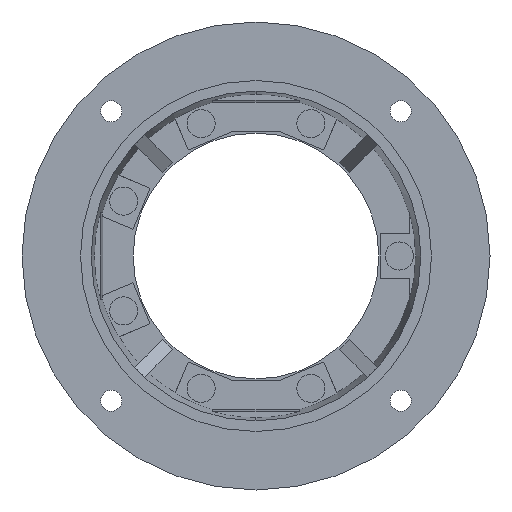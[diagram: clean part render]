
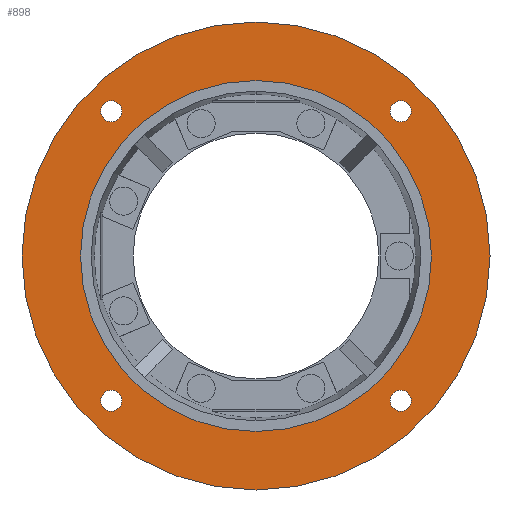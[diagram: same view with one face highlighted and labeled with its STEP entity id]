
A CAD part, left-side view. The second image highlights one B-rep face of the part: STEP entity #898.
In plain terms, the highlighted planar face has unit normal (-1, 0, 0) as drawn and (1, 0, 0) by its records, which use the part's own axes.
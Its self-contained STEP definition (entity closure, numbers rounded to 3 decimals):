
#898=ADVANCED_FACE('',(#1026,#998,#999,#1000,#1001,#1002),#2762,.T.);
#998=FACE_BOUND('',#1142,.T.);
#999=FACE_BOUND('',#1143,.T.);
#1000=FACE_BOUND('',#1144,.T.);
#1001=FACE_BOUND('',#1145,.T.);
#1002=FACE_BOUND('',#1146,.T.);
#1026=FACE_OUTER_BOUND('',#1141,.T.);
#1141=EDGE_LOOP('',(#1424,#1425));
#1142=EDGE_LOOP('',(#1426,#1427));
#1143=EDGE_LOOP('',(#1428,#1429));
#1144=EDGE_LOOP('',(#1430,#1431));
#1145=EDGE_LOOP('',(#1432,#1433));
#1146=EDGE_LOOP('',(#1434,#1435));
#1424=ORIENTED_EDGE('',*,*,#2099,.F.);
#1425=ORIENTED_EDGE('',*,*,#1929,.F.);
#1426=ORIENTED_EDGE('',*,*,#2111,.F.);
#1427=ORIENTED_EDGE('',*,*,#1948,.F.);
#1428=ORIENTED_EDGE('',*,*,#2109,.F.);
#1429=ORIENTED_EDGE('',*,*,#1944,.F.);
#1430=ORIENTED_EDGE('',*,*,#2107,.F.);
#1431=ORIENTED_EDGE('',*,*,#1940,.F.);
#1432=ORIENTED_EDGE('',*,*,#2105,.F.);
#1433=ORIENTED_EDGE('',*,*,#1936,.F.);
#1434=ORIENTED_EDGE('',*,*,#2103,.F.);
#1435=ORIENTED_EDGE('',*,*,#1933,.F.);
#1929=EDGE_CURVE('',#2650,#2697,#2173,.T.);
#1933=EDGE_CURVE('',#2651,#2698,#2176,.T.);
#1936=EDGE_CURVE('',#2655,#2700,#2178,.T.);
#1940=EDGE_CURVE('',#2654,#2701,#2181,.T.);
#1944=EDGE_CURVE('',#2653,#2702,#2184,.T.);
#1948=EDGE_CURVE('',#2652,#2703,#2187,.T.);
#2099=EDGE_CURVE('',#2697,#2650,#2208,.T.);
#2103=EDGE_CURVE('',#2698,#2651,#2211,.T.);
#2105=EDGE_CURVE('',#2700,#2655,#2212,.T.);
#2107=EDGE_CURVE('',#2701,#2654,#2213,.T.);
#2109=EDGE_CURVE('',#2702,#2653,#2214,.T.);
#2111=EDGE_CURVE('',#2703,#2652,#2215,.T.);
#2173=TRIMMED_CURVE($,#2261,(#4105),(#4106),.T.,.CARTESIAN.);
#2176=TRIMMED_CURVE($,#2264,(#4116),(#4117),.T.,.CARTESIAN.);
#2178=TRIMMED_CURVE($,#2266,(#4124),(#4125),.T.,.CARTESIAN.);
#2181=TRIMMED_CURVE($,#2269,(#4135),(#4136),.T.,.CARTESIAN.);
#2184=TRIMMED_CURVE($,#2272,(#4146),(#4147),.T.,.CARTESIAN.);
#2187=TRIMMED_CURVE($,#2275,(#4157),(#4158),.T.,.CARTESIAN.);
#2208=TRIMMED_CURVE($,#2296,(#4544),(#4545),.T.,.CARTESIAN.);
#2211=TRIMMED_CURVE($,#2299,(#4555),(#4556),.T.,.CARTESIAN.);
#2212=TRIMMED_CURVE($,#2300,(#4560),(#4561),.T.,.CARTESIAN.);
#2213=TRIMMED_CURVE($,#2301,(#4565),(#4566),.T.,.CARTESIAN.);
#2214=TRIMMED_CURVE($,#2302,(#4570),(#4571),.T.,.CARTESIAN.);
#2215=TRIMMED_CURVE($,#2303,(#4575),(#4576),.T.,.CARTESIAN.);
#2261=CIRCLE('',#3136,200.);
#2264=CIRCLE('',#3139,150.);
#2266=CIRCLE('',#3141,9.);
#2269=CIRCLE('',#3144,9.);
#2272=CIRCLE('',#3147,9.);
#2275=CIRCLE('',#3150,9.);
#2296=CIRCLE('',#3171,200.);
#2299=CIRCLE('',#3174,150.);
#2300=CIRCLE('',#3175,9.);
#2301=CIRCLE('',#3176,9.);
#2302=CIRCLE('',#3177,9.);
#2303=CIRCLE('',#3178,9.);
#2650=VERTEX_POINT('',#3809);
#2651=VERTEX_POINT('',#3810);
#2652=VERTEX_POINT('',#3811);
#2653=VERTEX_POINT('',#3812);
#2654=VERTEX_POINT('',#3813);
#2655=VERTEX_POINT('',#3814);
#2697=VERTEX_POINT('',#3856);
#2698=VERTEX_POINT('',#3857);
#2700=VERTEX_POINT('',#3859);
#2701=VERTEX_POINT('',#3860);
#2702=VERTEX_POINT('',#3861);
#2703=VERTEX_POINT('',#3862);
#2762=PLANE('',#3014);
#3014=AXIS2_PLACEMENT_3D('',#3576,#3210,$);
#3136=AXIS2_PLACEMENT_3D($,#4104,#3362,#3363);
#3139=AXIS2_PLACEMENT_3D($,#4115,#3368,#3369);
#3141=AXIS2_PLACEMENT_3D($,#4123,#3372,#3373);
#3144=AXIS2_PLACEMENT_3D($,#4134,#3378,#3379);
#3147=AXIS2_PLACEMENT_3D($,#4145,#3384,#3385);
#3150=AXIS2_PLACEMENT_3D($,#4156,#3390,#3391);
#3171=AXIS2_PLACEMENT_3D($,#4543,#3432,#3433);
#3174=AXIS2_PLACEMENT_3D($,#4554,#3438,#3439);
#3175=AXIS2_PLACEMENT_3D($,#4559,#3440,#3441);
#3176=AXIS2_PLACEMENT_3D($,#4564,#3442,#3443);
#3177=AXIS2_PLACEMENT_3D($,#4569,#3444,#3445);
#3178=AXIS2_PLACEMENT_3D($,#4574,#3446,#3447);
#3210=DIRECTION('',(1.,0.,0.));
#3362=DIRECTION('',(-1.,0.,0.));
#3363=DIRECTION('',(0.,0.,-1.));
#3368=DIRECTION('',(1.,0.,0.));
#3369=DIRECTION('',(0.,0.,-1.));
#3372=DIRECTION('',(1.,0.,0.));
#3373=DIRECTION('',(0.,0.,1.));
#3378=DIRECTION('',(1.,0.,0.));
#3379=DIRECTION('',(0.,0.,1.));
#3384=DIRECTION('',(1.,0.,0.));
#3385=DIRECTION('',(0.,0.,1.));
#3390=DIRECTION('',(1.,0.,0.));
#3391=DIRECTION('',(0.,0.,1.));
#3432=DIRECTION('',(-1.,0.,0.));
#3433=DIRECTION('',(0.,0.,1.));
#3438=DIRECTION('',(1.,0.,0.));
#3439=DIRECTION('',(0.,0.,1.));
#3440=DIRECTION('',(1.,0.,0.));
#3441=DIRECTION('',(0.,0.,-1.));
#3442=DIRECTION('',(1.,0.,0.));
#3443=DIRECTION('',(0.,0.,-1.));
#3444=DIRECTION('',(1.,0.,0.));
#3445=DIRECTION('',(0.,0.,-1.));
#3446=DIRECTION('',(1.,0.,0.));
#3447=DIRECTION('',(0.,0.,-1.));
#3576=CARTESIAN_POINT('',(45.,-240.,-240.));
#3809=CARTESIAN_POINT('',(45.,0.,-200.));
#3810=CARTESIAN_POINT('',(45.,0.,-150.));
#3811=CARTESIAN_POINT('',(45.,-123.744,-114.744));
#3812=CARTESIAN_POINT('',(45.,-123.744,132.744));
#3813=CARTESIAN_POINT('',(45.,123.744,132.744));
#3814=CARTESIAN_POINT('',(45.,123.744,-114.744));
#3856=CARTESIAN_POINT('',(45.,0.,200.));
#3857=CARTESIAN_POINT('',(45.,0.,150.));
#3859=CARTESIAN_POINT('',(45.,123.744,-132.744));
#3860=CARTESIAN_POINT('',(45.,123.744,114.744));
#3861=CARTESIAN_POINT('',(45.,-123.744,114.744));
#3862=CARTESIAN_POINT('',(45.,-123.744,-132.744));
#4104=CARTESIAN_POINT('',(45.,0.,0.));
#4105=CARTESIAN_POINT('',(45.,0.,-200.));
#4106=CARTESIAN_POINT('',(45.,0.,200.));
#4115=CARTESIAN_POINT('',(45.,0.,0.));
#4116=CARTESIAN_POINT('',(45.,0.,-150.));
#4117=CARTESIAN_POINT('',(45.,0.,150.));
#4123=CARTESIAN_POINT('',(45.,123.744,-123.744));
#4124=CARTESIAN_POINT('',(45.,123.744,-114.744));
#4125=CARTESIAN_POINT('',(45.,123.744,-132.744));
#4134=CARTESIAN_POINT('',(45.,123.744,123.744));
#4135=CARTESIAN_POINT('',(45.,123.744,132.744));
#4136=CARTESIAN_POINT('',(45.,123.744,114.744));
#4145=CARTESIAN_POINT('',(45.,-123.744,123.744));
#4146=CARTESIAN_POINT('',(45.,-123.744,132.744));
#4147=CARTESIAN_POINT('',(45.,-123.744,114.744));
#4156=CARTESIAN_POINT('',(45.,-123.744,-123.744));
#4157=CARTESIAN_POINT('',(45.,-123.744,-114.744));
#4158=CARTESIAN_POINT('',(45.,-123.744,-132.744));
#4543=CARTESIAN_POINT('',(45.,0.,0.));
#4544=CARTESIAN_POINT('',(45.,0.,200.));
#4545=CARTESIAN_POINT('',(45.,0.,-200.));
#4554=CARTESIAN_POINT('',(45.,0.,0.));
#4555=CARTESIAN_POINT('',(45.,0.,150.));
#4556=CARTESIAN_POINT('',(45.,0.,-150.));
#4559=CARTESIAN_POINT('',(45.,123.744,-123.744));
#4560=CARTESIAN_POINT('',(45.,123.744,-132.744));
#4561=CARTESIAN_POINT('',(45.,123.744,-114.744));
#4564=CARTESIAN_POINT('',(45.,123.744,123.744));
#4565=CARTESIAN_POINT('',(45.,123.744,114.744));
#4566=CARTESIAN_POINT('',(45.,123.744,132.744));
#4569=CARTESIAN_POINT('',(45.,-123.744,123.744));
#4570=CARTESIAN_POINT('',(45.,-123.744,114.744));
#4571=CARTESIAN_POINT('',(45.,-123.744,132.744));
#4574=CARTESIAN_POINT('',(45.,-123.744,-123.744));
#4575=CARTESIAN_POINT('',(45.,-123.744,-132.744));
#4576=CARTESIAN_POINT('',(45.,-123.744,-114.744));
